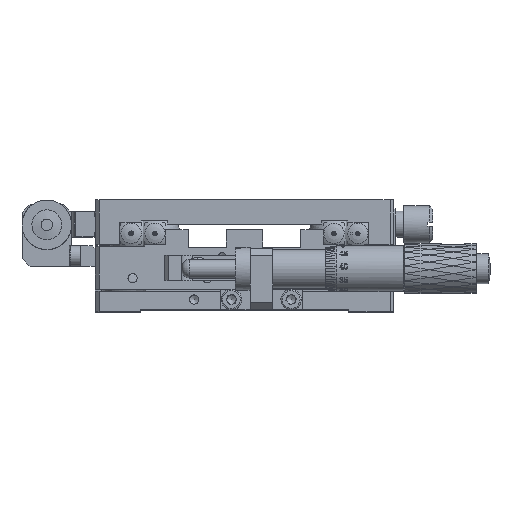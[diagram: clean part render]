
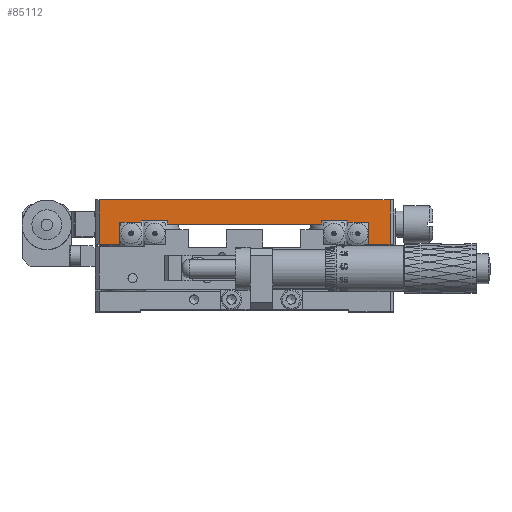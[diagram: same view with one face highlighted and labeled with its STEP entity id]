
A CAD part, top view. The second image highlights one B-rep face of the part: STEP entity #85112.
In plain terms, the highlighted planar face has unit normal (0, 0, 1).
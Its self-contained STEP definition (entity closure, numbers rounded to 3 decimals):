
#1246 = VECTOR ( 'NONE', #144928, 1000. ) ;
#1358 = ORIENTED_EDGE ( 'NONE', *, *, #155191, .T. ) ;
#2319 = CARTESIAN_POINT ( 'NONE',  ( 1., 18., 40. ) ) ;
#2820 = EDGE_CURVE ( 'NONE', #109746, #12425, #49093, .T. ) ;
#6012 = CARTESIAN_POINT ( 'NONE',  ( 0., 30., 40. ) ) ;
#8749 = FACE_OUTER_BOUND ( 'NONE', #22420, .T. ) ;
#9433 = CARTESIAN_POINT ( 'NONE',  ( 60.7, 23.5, 40. ) ) ;
#12425 = VERTEX_POINT ( 'NONE', #142369 ) ;
#12876 = DIRECTION ( 'NONE',  ( 0., -1., 0. ) ) ;
#13633 = EDGE_CURVE ( 'NONE', #165963, #56439, #13896, .T. ) ;
#13801 = CARTESIAN_POINT ( 'NONE',  ( 67.7, 24., 40. ) ) ;
#13896 = LINE ( 'NONE', #163479, #104531 ) ;
#14317 = DIRECTION ( 'NONE',  ( 0., 1., 0. ) ) ;
#15730 = LINE ( 'NONE', #2319, #63540 ) ;
#17956 = EDGE_CURVE ( 'NONE', #42168, #12425, #50484, .T. ) ;
#20245 = ORIENTED_EDGE ( 'NONE', *, *, #2820, .T. ) ;
#20454 = ORIENTED_EDGE ( 'NONE', *, *, #120461, .T. ) ;
#20510 = VECTOR ( 'NONE', #128890, 1000. ) ;
#21103 = CARTESIAN_POINT ( 'NONE',  ( 12.3, 24.5, 40. ) ) ;
#22420 = EDGE_LOOP ( 'NONE', ( #166284, #175843, #158490, #158989, #1358, #61648, #49085, #89571, #23359, #126166, #129044, #72030, #20454, #145855, #70436, #20245 ) ) ;
#23359 = ORIENTED_EDGE ( 'NONE', *, *, #119478, .T. ) ;
#24424 = VERTEX_POINT ( 'NONE', #87106 ) ;
#33591 = VERTEX_POINT ( 'NONE', #34605 ) ;
#34605 = CARTESIAN_POINT ( 'NONE',  ( 12.3, 24., 40. ) ) ;
#36386 = DIRECTION ( 'NONE',  ( -1., 0., 0. ) ) ;
#37021 = CARTESIAN_POINT ( 'NONE',  ( 60.7, 24.5, 40. ) ) ;
#39405 = EDGE_CURVE ( 'NONE', #151831, #128316, #123597, .T. ) ;
#39992 = VERTEX_POINT ( 'NONE', #123373 ) ;
#42168 = VERTEX_POINT ( 'NONE', #155644 ) ;
#42509 = CARTESIAN_POINT ( 'NONE',  ( 67.7, 24.5, 40. ) ) ;
#48706 = VECTOR ( 'NONE', #143397, 1000. ) ;
#49085 = ORIENTED_EDGE ( 'NONE', *, *, #13633, .T. ) ;
#49093 = LINE ( 'NONE', #51722, #105625 ) ;
#49190 = VECTOR ( 'NONE', #162801, 1000. ) ;
#50484 = LINE ( 'NONE', #134671, #154210 ) ;
#51722 = CARTESIAN_POINT ( 'NONE',  ( 0., 18., 40. ) ) ;
#52006 = VECTOR ( 'NONE', #154388, 1000. ) ;
#52986 = CARTESIAN_POINT ( 'NONE',  ( 19.3, 24.5, 40. ) ) ;
#53220 = CARTESIAN_POINT ( 'NONE',  ( 1., 18., 40. ) ) ;
#53354 = LINE ( 'NONE', #107142, #104550 ) ;
#53492 = LINE ( 'NONE', #108160, #49190 ) ;
#56439 = VERTEX_POINT ( 'NONE', #37021 ) ;
#56881 = CARTESIAN_POINT ( 'NONE',  ( 67.7, 24.5, 40. ) ) ;
#58455 = CARTESIAN_POINT ( 'NONE',  ( 12.3, 24.5, 40. ) ) ;
#60481 = LINE ( 'NONE', #21103, #144338 ) ;
#61374 = DIRECTION ( 'NONE',  ( 0., 1., 0. ) ) ;
#61648 = ORIENTED_EDGE ( 'NONE', *, *, #96995, .T. ) ;
#62523 = CARTESIAN_POINT ( 'NONE',  ( 0., 18., 40. ) ) ;
#63540 = VECTOR ( 'NONE', #97245, 1000. ) ;
#63972 = DIRECTION ( 'NONE',  ( -1., 0., 0. ) ) ;
#64833 = DIRECTION ( 'NONE',  ( 1., 0., 0. ) ) ;
#70436 = ORIENTED_EDGE ( 'NONE', *, *, #145907, .T. ) ;
#72030 = ORIENTED_EDGE ( 'NONE', *, *, #144119, .T. ) ;
#72255 = DIRECTION ( 'NONE',  ( 1., 0., 0. ) ) ;
#76850 = DIRECTION ( 'NONE',  ( 1., 0., 0. ) ) ;
#77834 = VECTOR ( 'NONE', #14317, 1000. ) ;
#85112 = ADVANCED_FACE ( 'NONE', ( #8749 ), #159198, .T. ) ;
#85585 = VECTOR ( 'NONE', #141153, 1000. ) ;
#87106 = CARTESIAN_POINT ( 'NONE',  ( 79., 18., 40. ) ) ;
#87401 = CARTESIAN_POINT ( 'NONE',  ( 67.7, 24.5, 40. ) ) ;
#88745 = LINE ( 'NONE', #42509, #48706 ) ;
#89571 = ORIENTED_EDGE ( 'NONE', *, *, #94777, .T. ) ;
#90011 = LINE ( 'NONE', #159854, #105820 ) ;
#91804 = VERTEX_POINT ( 'NONE', #56881 ) ;
#92897 = CARTESIAN_POINT ( 'NONE',  ( 0., 18., 40. ) ) ;
#93684 = VERTEX_POINT ( 'NONE', #101481 ) ;
#94777 = EDGE_CURVE ( 'NONE', #56439, #91804, #142932, .T. ) ;
#95827 = CARTESIAN_POINT ( 'NONE',  ( 73.2, 18., 40. ) ) ;
#96995 = EDGE_CURVE ( 'NONE', #93684, #165963, #120414, .T. ) ;
#97245 = DIRECTION ( 'NONE',  ( 0., -1., 0. ) ) ;
#101481 = CARTESIAN_POINT ( 'NONE',  ( 19.3, 23.5, 40. ) ) ;
#102858 = LINE ( 'NONE', #117171, #1246 ) ;
#104531 = VECTOR ( 'NONE', #162588, 1000. ) ;
#104550 = VECTOR ( 'NONE', #36386, 1000. ) ;
#104895 = CARTESIAN_POINT ( 'NONE',  ( 73.2, 24., 40. ) ) ;
#105472 = EDGE_CURVE ( 'NONE', #33591, #42168, #53354, .T. ) ;
#105625 = VECTOR ( 'NONE', #76850, 1000. ) ;
#105820 = VECTOR ( 'NONE', #63972, 1000. ) ;
#107142 = CARTESIAN_POINT ( 'NONE',  ( 12.3, 24., 40. ) ) ;
#108160 = CARTESIAN_POINT ( 'NONE',  ( 79., 18., 40. ) ) ;
#108276 = CARTESIAN_POINT ( 'NONE',  ( 1., 30., 40. ) ) ;
#109746 = VERTEX_POINT ( 'NONE', #53220 ) ;
#110879 = VECTOR ( 'NONE', #72255, 1000. ) ;
#116583 = EDGE_CURVE ( 'NONE', #138820, #123878, #88745, .T. ) ;
#117171 = CARTESIAN_POINT ( 'NONE',  ( 19.3, 24.5, 40. ) ) ;
#119478 = EDGE_CURVE ( 'NONE', #91804, #134473, #169629, .T. ) ;
#120414 = LINE ( 'NONE', #159823, #127600 ) ;
#120461 = EDGE_CURVE ( 'NONE', #24424, #39992, #53492, .T. ) ;
#123373 = CARTESIAN_POINT ( 'NONE',  ( 79., 30., 40. ) ) ;
#123597 = LINE ( 'NONE', #95827, #77834 ) ;
#123878 = VERTEX_POINT ( 'NONE', #52986 ) ;
#126166 = ORIENTED_EDGE ( 'NONE', *, *, #137841, .F. ) ;
#127600 = VECTOR ( 'NONE', #64833, 1000. ) ;
#128316 = VERTEX_POINT ( 'NONE', #104895 ) ;
#128890 = DIRECTION ( 'NONE',  ( 1., 0., 0. ) ) ;
#129044 = ORIENTED_EDGE ( 'NONE', *, *, #39405, .F. ) ;
#131440 = DIRECTION ( 'NONE',  ( 0., 0., 1. ) ) ;
#134473 = VERTEX_POINT ( 'NONE', #13801 ) ;
#134671 = CARTESIAN_POINT ( 'NONE',  ( 6.6, 18., 40. ) ) ;
#136787 = AXIS2_PLACEMENT_3D ( 'NONE', #92897, #131440, #145762 ) ;
#137347 = VERTEX_POINT ( 'NONE', #108276 ) ;
#137841 = EDGE_CURVE ( 'NONE', #128316, #134473, #90011, .T. ) ;
#138820 = VERTEX_POINT ( 'NONE', #58455 ) ;
#141153 = DIRECTION ( 'NONE',  ( 1., 0., 0. ) ) ;
#142369 = CARTESIAN_POINT ( 'NONE',  ( 6.6, 18., 40. ) ) ;
#142932 = LINE ( 'NONE', #87401, #85585 ) ;
#143397 = DIRECTION ( 'NONE',  ( 1., 0., 0. ) ) ;
#144119 = EDGE_CURVE ( 'NONE', #151831, #24424, #154871, .T. ) ;
#144338 = VECTOR ( 'NONE', #61374, 1000. ) ;
#144928 = DIRECTION ( 'NONE',  ( 0., -1., 0. ) ) ;
#145762 = DIRECTION ( 'NONE',  ( 1., 0., 0. ) ) ;
#145855 = ORIENTED_EDGE ( 'NONE', *, *, #166707, .F. ) ;
#145907 = EDGE_CURVE ( 'NONE', #137347, #109746, #15730, .T. ) ;
#147426 = CARTESIAN_POINT ( 'NONE',  ( 73.2, 18., 40. ) ) ;
#148523 = LINE ( 'NONE', #6012, #110879 ) ;
#151831 = VERTEX_POINT ( 'NONE', #147426 ) ;
#154210 = VECTOR ( 'NONE', #12876, 1000. ) ;
#154388 = DIRECTION ( 'NONE',  ( 0., -1., 0. ) ) ;
#154871 = LINE ( 'NONE', #62523, #20510 ) ;
#155191 = EDGE_CURVE ( 'NONE', #123878, #93684, #102858, .T. ) ;
#155644 = CARTESIAN_POINT ( 'NONE',  ( 6.6, 24., 40. ) ) ;
#158490 = ORIENTED_EDGE ( 'NONE', *, *, #170169, .T. ) ;
#158989 = ORIENTED_EDGE ( 'NONE', *, *, #116583, .T. ) ;
#159198 = PLANE ( 'NONE',  #136787 ) ;
#159823 = CARTESIAN_POINT ( 'NONE',  ( 19.3, 23.5, 40. ) ) ;
#159854 = CARTESIAN_POINT ( 'NONE',  ( 67.7, 24., 40. ) ) ;
#162588 = DIRECTION ( 'NONE',  ( 0., 1., 0. ) ) ;
#162801 = DIRECTION ( 'NONE',  ( 0., 1., 0. ) ) ;
#163479 = CARTESIAN_POINT ( 'NONE',  ( 60.7, 24.5, 40. ) ) ;
#165963 = VERTEX_POINT ( 'NONE', #9433 ) ;
#166284 = ORIENTED_EDGE ( 'NONE', *, *, #17956, .F. ) ;
#166707 = EDGE_CURVE ( 'NONE', #137347, #39992, #148523, .T. ) ;
#168729 = CARTESIAN_POINT ( 'NONE',  ( 67.7, 24.5, 40. ) ) ;
#169629 = LINE ( 'NONE', #168729, #52006 ) ;
#170169 = EDGE_CURVE ( 'NONE', #33591, #138820, #60481, .T. ) ;
#175843 = ORIENTED_EDGE ( 'NONE', *, *, #105472, .F. ) ;
